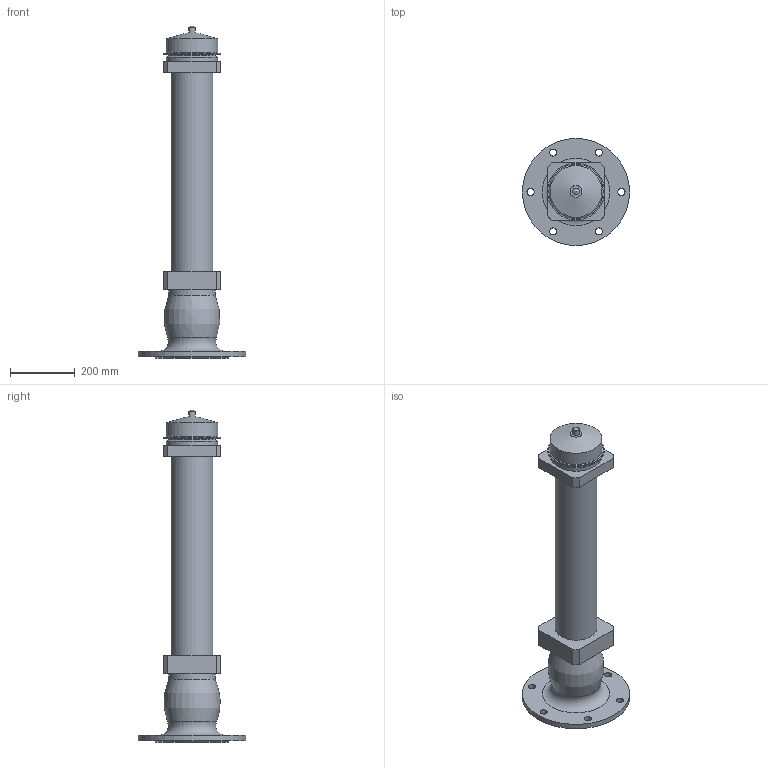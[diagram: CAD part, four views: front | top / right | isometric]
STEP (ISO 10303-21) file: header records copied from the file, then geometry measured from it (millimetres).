
FILE_DESCRIPTION(('STEP AP203'), '1');
FILE_NAME('Ãèäðàíò GPP 1000 ïîæàðíûé ïîäçåìíûé', '', ('UNSPECIFIED'), ('UNSPECIFIED'), 'ASCON STEP Converter 1.6', 'ASCON Math Kernel', '');
FILE_SCHEMA(('CONFIG_CONTROL_DESIGN'));
Length unit declared in the file: millimetre
Bounding box: 330 x 330 x 1022 mm (x, y, z)
Volume: 17738848.1 mm3; surface area: 705582.4 mm2
Topology: 1 solids, 1 shells, 47 faces, 104 edges, 67 vertices
Faces by surface type: plane 26, cylinder 12, cone 7, torus 2
Full cylindrical faces by diameter (mm): 20 x1, 22 x6, 129 x1, 142 x1, 143 x1, 157.302 x1, 160 x1
Entity records: 1617 total; most frequent: DIRECTION 212, CARTESIAN_POINT 196, ORIENTED_EDGE 164, EDGE_LOOP 88, AXIS2_PLACEMENT_3D 82, EDGE_CURVE 82, VERTEX_POINT 66, COLOUR_RGB 48
